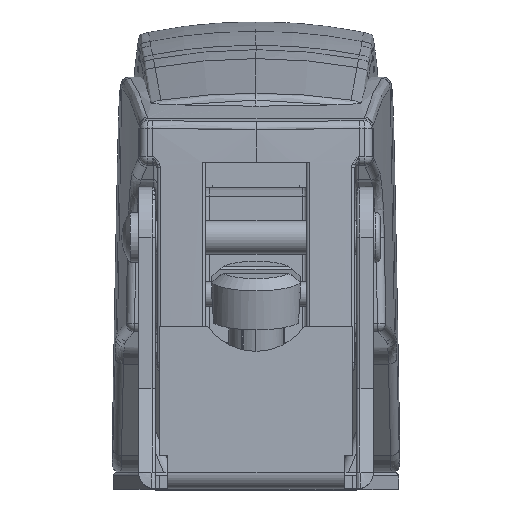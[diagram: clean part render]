
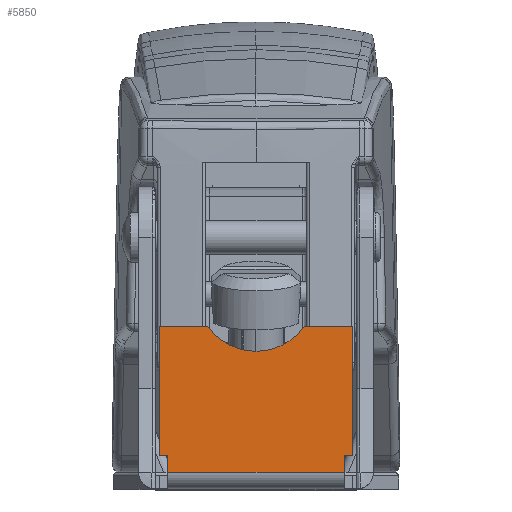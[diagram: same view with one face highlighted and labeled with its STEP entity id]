
A CAD part, top view. The second image highlights one B-rep face of the part: STEP entity #5850.
In plain terms, the highlighted planar face has unit normal (0, 0, 1).
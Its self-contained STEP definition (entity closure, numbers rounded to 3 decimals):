
#1489=DIRECTION('',(1.,0.,0.));
#1490=VECTOR('',#1489,10.5);
#1491=CARTESIAN_POINT('',(-5.25,1.,1.));
#1492=LINE('',#1491,#1490);
#1493=DIRECTION('',(0.,1.,0.));
#1494=VECTOR('',#1493,1.);
#1495=CARTESIAN_POINT('',(-5.25,1.,1.));
#1496=LINE('',#1495,#1494);
#1497=DIRECTION('',(-1.,0.,0.));
#1498=VECTOR('',#1497,0.5);
#1499=CARTESIAN_POINT('',(-5.25,2.,1.));
#1500=LINE('',#1499,#1498);
#1501=DIRECTION('',(0.,1.,0.));
#1502=VECTOR('',#1501,7.7);
#1503=CARTESIAN_POINT('',(-5.75,2.,1.));
#1504=LINE('',#1503,#1502);
#1505=DIRECTION('',(1.,0.,0.));
#1506=VECTOR('',#1505,2.878);
#1507=CARTESIAN_POINT('',(-5.75,9.7,1.));
#1508=LINE('',#1507,#1506);
#1509=CARTESIAN_POINT('',(0.,11.7,1.));
#1510=DIRECTION('',(0.,0.,1.));
#1511=DIRECTION('',(-0.821,-0.571,0.));
#1512=AXIS2_PLACEMENT_3D('',#1509,#1510,#1511);
#1514=DIRECTION('',(1.,0.,0.));
#1515=VECTOR('',#1514,2.878);
#1516=CARTESIAN_POINT('',(2.872,9.7,1.));
#1517=LINE('',#1516,#1515);
#1518=DIRECTION('',(0.,-1.,0.));
#1519=VECTOR('',#1518,7.7);
#1520=CARTESIAN_POINT('',(5.75,9.7,1.));
#1521=LINE('',#1520,#1519);
#1522=DIRECTION('',(-1.,0.,0.));
#1523=VECTOR('',#1522,0.5);
#1524=CARTESIAN_POINT('',(5.75,2.,1.));
#1525=LINE('',#1524,#1523);
#1526=DIRECTION('',(0.,-1.,0.));
#1527=VECTOR('',#1526,1.);
#1528=CARTESIAN_POINT('',(5.25,2.,1.));
#1529=LINE('',#1528,#1527);
#3187=CARTESIAN_POINT('',(-5.25,1.,1.));
#3188=VERTEX_POINT('',#3187);
#3193=CARTESIAN_POINT('',(-5.25,2.,1.));
#3194=VERTEX_POINT('',#3193);
#3197=CARTESIAN_POINT('',(-5.75,2.,1.));
#3198=VERTEX_POINT('',#3197);
#3223=CARTESIAN_POINT('',(5.25,1.,1.));
#3224=VERTEX_POINT('',#3223);
#3468=CARTESIAN_POINT('',(-5.75,9.7,1.));
#3469=VERTEX_POINT('',#3468);
#3470=CARTESIAN_POINT('',(-2.872,9.7,1.));
#3471=VERTEX_POINT('',#3470);
#3472=CARTESIAN_POINT('',(2.872,9.7,1.));
#3473=VERTEX_POINT('',#3472);
#3474=CARTESIAN_POINT('',(5.75,9.7,1.));
#3475=VERTEX_POINT('',#3474);
#3476=CARTESIAN_POINT('',(5.75,2.,1.));
#3477=VERTEX_POINT('',#3476);
#3478=CARTESIAN_POINT('',(5.25,2.,1.));
#3479=VERTEX_POINT('',#3478);
#5826=CARTESIAN_POINT('',(0.,-21.5,1.));
#5827=DIRECTION('',(0.,0.,1.));
#5828=DIRECTION('',(0.,-1.,0.));
#5829=AXIS2_PLACEMENT_3D('',#5826,#5827,#5828);
#5830=PLANE('',#5829);
#5831=ORIENTED_EDGE('',*,*,#5820,.F.);
#5832=ORIENTED_EDGE('',*,*,#4409,.T.);
#5833=ORIENTED_EDGE('',*,*,#4424,.T.);
#5835=ORIENTED_EDGE('',*,*,#5834,.T.);
#5837=ORIENTED_EDGE('',*,*,#5836,.T.);
#5839=ORIENTED_EDGE('',*,*,#5838,.T.);
#5841=ORIENTED_EDGE('',*,*,#5840,.T.);
#5843=ORIENTED_EDGE('',*,*,#5842,.T.);
#5845=ORIENTED_EDGE('',*,*,#5844,.T.);
#5847=ORIENTED_EDGE('',*,*,#5846,.T.);
#5848=EDGE_LOOP('',(#5831,#5832,#5833,#5835,#5837,#5839,#5841,#5843,#5845,
#5847));
#5849=FACE_OUTER_BOUND('',#5848,.F.);
#5850=ADVANCED_FACE('',(#5849),#5830,.T.);
#1513=CIRCLE('',#1512,3.5);
#4409=EDGE_CURVE('',#3188,#3194,#1496,.T.);
#4424=EDGE_CURVE('',#3194,#3198,#1500,.T.);
#5820=EDGE_CURVE('',#3188,#3224,#1492,.T.);
#5834=EDGE_CURVE('',#3198,#3469,#1504,.T.);
#5836=EDGE_CURVE('',#3469,#3471,#1508,.T.);
#5838=EDGE_CURVE('',#3471,#3473,#1513,.T.);
#5840=EDGE_CURVE('',#3473,#3475,#1517,.T.);
#5842=EDGE_CURVE('',#3475,#3477,#1521,.T.);
#5844=EDGE_CURVE('',#3477,#3479,#1525,.T.);
#5846=EDGE_CURVE('',#3479,#3224,#1529,.T.);
